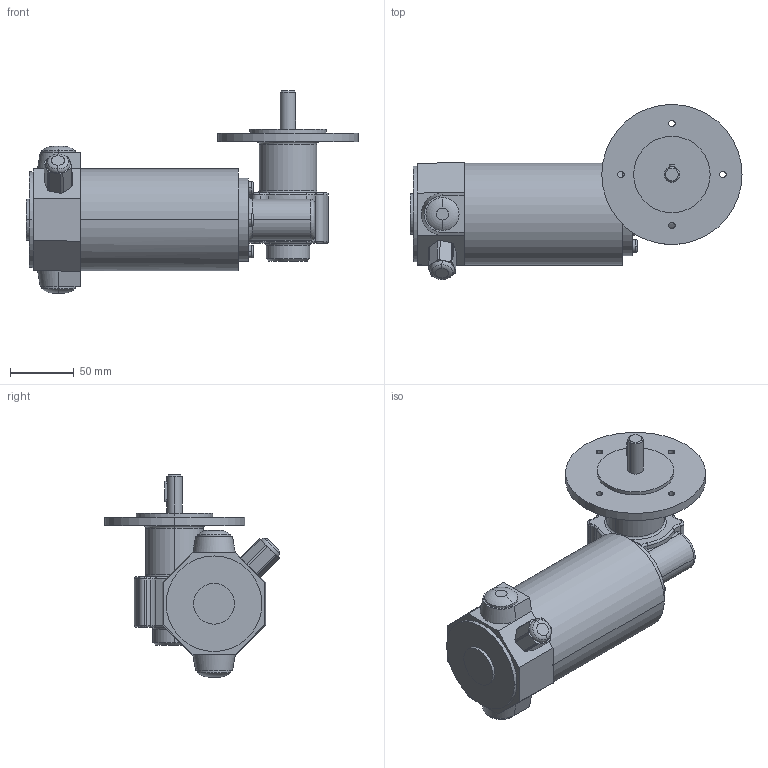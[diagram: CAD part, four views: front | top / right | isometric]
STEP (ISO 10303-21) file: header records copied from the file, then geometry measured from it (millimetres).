
FILE_DESCRIPTION(('OneSpaceDesigner STEP Export'),'2;1');
FILE_NAME('EPG13_GF125-10.stp','2008-07-02T13:56:05',(''),(''),'OneSpace Designer STEP processor (Jan. 2003) for AP214(CD)(Solid Model)','OneSpace Designer 12.01D 09-Jul-2004 (C) CoCreate Software GmbH','');
FILE_SCHEMA(('AUTOMOTIVE_DESIGN_CC2 {1 2 10303 214 -1 1 5 1}'));
Length unit declared in the file: millimetre
Products named in the file (2): EPG13_GF125-10
Assembly tree (1 placements, depth 2):
  EPG13_GF125-10
    EPG13_GF125-10
Bounding box: 260.5 x 137.39 x 158.5 mm (x, y, z)
Volume: 1211964.7 mm3; surface area: 100663.2 mm2
Topology: 1 solids, 1 shells, 217 faces, 523 edges, 325 vertices
Faces by surface type: cylinder 87, torus 74, plane 50, cone 4, bspline 2
Entity records: 8918 total; most frequent: CARTESIAN_POINT 4267, ORIENTED_EDGE 1046, DIRECTION 867, EDGE_CURVE 523, AXIS2_PLACEMENT_3D 357, VERTEX_POINT 325, EDGE_LOOP 242, CIRCLE 217
